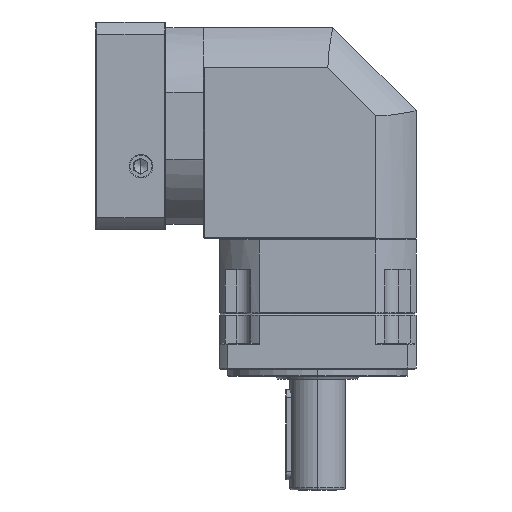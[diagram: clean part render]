
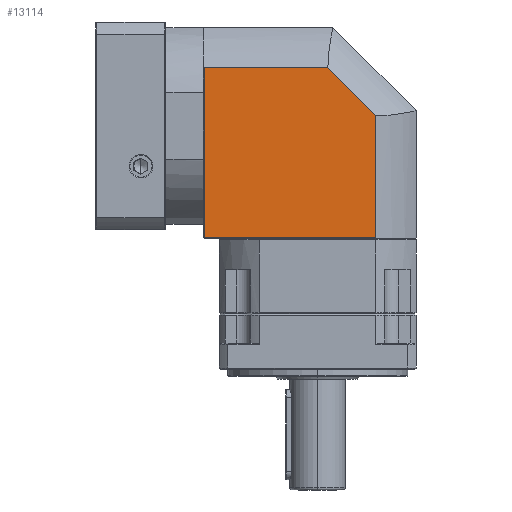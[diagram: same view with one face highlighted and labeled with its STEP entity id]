
A CAD part, left-side view. The second image highlights one B-rep face of the part: STEP entity #13114.
In plain terms, the highlighted planar face has unit normal (-1, 0, 0).
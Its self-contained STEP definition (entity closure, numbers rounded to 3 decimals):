
#739 = ORIENTED_EDGE ( 'NONE', *, *, #27352, .T. ) ;
#5646 = LINE ( 'NONE', #69364, #152418 ) ;
#6158 = EDGE_LOOP ( 'NONE', ( #102959, #739, #27405, #96958, #157634 ) ) ;
#13114 = ADVANCED_FACE ( 'NONE', ( #99914 ), #108587, .T. ) ;
#14095 = CARTESIAN_POINT ( 'NONE',  ( -29.966, -43.334, 340.174 ) ) ;
#27352 = EDGE_CURVE ( 'NONE', #87263, #166084, #144380, .T. ) ;
#27405 = ORIENTED_EDGE ( 'NONE', *, *, #165931, .T. ) ;
#29937 = EDGE_CURVE ( 'NONE', #153750, #87263, #168560, .T. ) ;
#30327 = VECTOR ( 'NONE', #83838, 1000. ) ;
#37229 = DIRECTION ( 'NONE',  ( 0., 1., 0. ) ) ;
#53907 = LINE ( 'NONE', #125184, #166791 ) ;
#54831 = VERTEX_POINT ( 'NONE', #155430 ) ;
#61794 = VERTEX_POINT ( 'NONE', #123283 ) ;
#62949 = EDGE_CURVE ( 'NONE', #61794, #153750, #53907, .T. ) ;
#67547 = DIRECTION ( 'NONE',  ( 0., 0., -1. ) ) ;
#69364 = CARTESIAN_POINT ( 'NONE',  ( -29.966, 32.916, 340.174 ) ) ;
#75715 = CARTESIAN_POINT ( 'NONE',  ( -29.966, -43.334, 264.574 ) ) ;
#83838 = DIRECTION ( 'NONE',  ( 0., 0.707, 0.707 ) ) ;
#87263 = VERTEX_POINT ( 'NONE', #154792 ) ;
#91168 = LINE ( 'NONE', #75715, #140124 ) ;
#96958 = ORIENTED_EDGE ( 'NONE', *, *, #168734, .T. ) ;
#99914 = FACE_OUTER_BOUND ( 'NONE', #6158, .T. ) ;
#102959 = ORIENTED_EDGE ( 'NONE', *, *, #29937, .T. ) ;
#106114 = VECTOR ( 'NONE', #37229, 1000. ) ;
#108587 = PLANE ( 'NONE',  #130575 ) ;
#108636 = DIRECTION ( 'NONE',  ( 0., 0., -1. ) ) ;
#112107 = DIRECTION ( 'NONE',  ( 0., 0., 1. ) ) ;
#123283 = CARTESIAN_POINT ( 'NONE',  ( -29.966, -91.099, 264.574 ) ) ;
#125184 = CARTESIAN_POINT ( 'NONE',  ( -29.966, -91.099, 340.174 ) ) ;
#130575 = AXIS2_PLACEMENT_3D ( 'NONE', #14095, #163908, #67547 ) ;
#138556 = CARTESIAN_POINT ( 'NONE',  ( -29.966, -91.099, 352.617 ) ) ;
#140124 = VECTOR ( 'NONE', #157858, 1000. ) ;
#144380 = LINE ( 'NONE', #175164, #106114 ) ;
#152418 = VECTOR ( 'NONE', #108636, 1000. ) ;
#153750 = VERTEX_POINT ( 'NONE', #168580 ) ;
#154792 = CARTESIAN_POINT ( 'NONE',  ( -29.966, -56.426, 387.289 ) ) ;
#155430 = CARTESIAN_POINT ( 'NONE',  ( -29.966, 32.916, 264.574 ) ) ;
#157634 = ORIENTED_EDGE ( 'NONE', *, *, #62949, .T. ) ;
#157858 = DIRECTION ( 'NONE',  ( 0., -1., 0. ) ) ;
#163908 = DIRECTION ( 'NONE',  ( -1., 0., 0. ) ) ;
#165931 = EDGE_CURVE ( 'NONE', #166084, #54831, #5646, .T. ) ;
#166084 = VERTEX_POINT ( 'NONE', #166302 ) ;
#166302 = CARTESIAN_POINT ( 'NONE',  ( -29.966, 32.916, 387.289 ) ) ;
#166791 = VECTOR ( 'NONE', #112107, 1000. ) ;
#168560 = LINE ( 'NONE', #138556, #30327 ) ;
#168580 = CARTESIAN_POINT ( 'NONE',  ( -29.966, -91.099, 352.617 ) ) ;
#168734 = EDGE_CURVE ( 'NONE', #54831, #61794, #91168, .T. ) ;
#175164 = CARTESIAN_POINT ( 'NONE',  ( -29.966, -43.334, 387.289 ) ) ;
